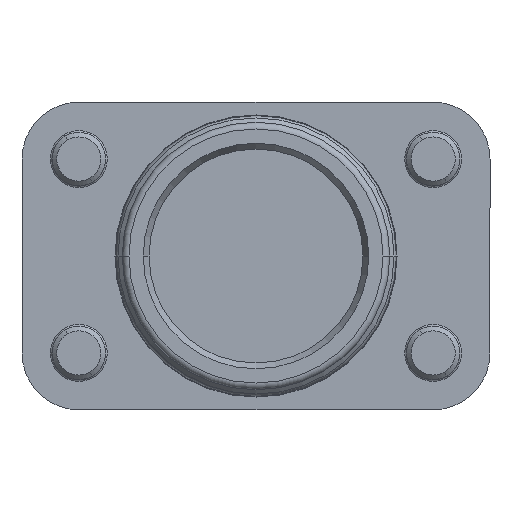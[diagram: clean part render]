
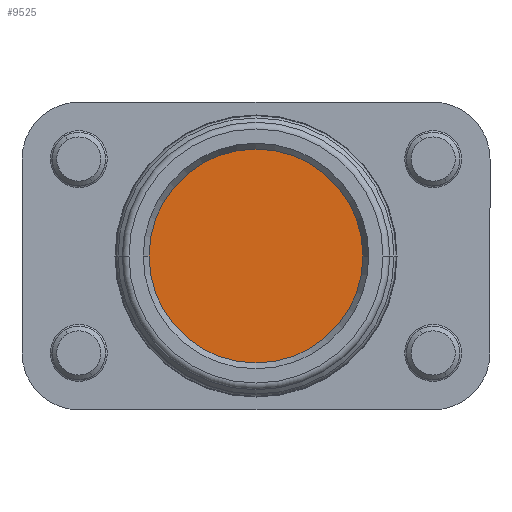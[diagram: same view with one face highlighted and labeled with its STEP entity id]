
A CAD part, front view. The second image highlights one B-rep face of the part: STEP entity #9525.
In plain terms, the highlighted planar face has unit normal (0, -1, 0).
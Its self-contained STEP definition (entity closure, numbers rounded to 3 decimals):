
#1389 = ORIENTED_EDGE ( 'NONE', *, *, #1446, .T. ) ;
#1446 = EDGE_CURVE ( 'NONE', #11925, #10078, #2579, .T. ) ;
#1902 = CARTESIAN_POINT ( 'NONE',  ( 0., 0., 0. ) ) ;
#2292 = DIRECTION ( 'NONE',  ( 0., -1., 0. ) ) ;
#2579 = CIRCLE ( 'NONE', #8260, 16. ) ;
#2843 = CARTESIAN_POINT ( 'NONE',  ( 0., 0., -16. ) ) ;
#2948 = ORIENTED_EDGE ( 'NONE', *, *, #9730, .T. ) ;
#3436 = DIRECTION ( 'NONE',  ( 0., -1., 0. ) ) ;
#4275 = DIRECTION ( 'NONE',  ( 0., 0., -1. ) ) ;
#4323 = EDGE_LOOP ( 'NONE', ( #2948, #1389 ) ) ;
#4900 = DIRECTION ( 'NONE',  ( 0., -1., 0. ) ) ;
#5019 = AXIS2_PLACEMENT_3D ( 'NONE', #10800, #4900, #10963 ) ;
#5323 = CARTESIAN_POINT ( 'NONE',  ( 0., 0., 16. ) ) ;
#5803 = PLANE ( 'NONE',  #5019 ) ;
#7314 = CARTESIAN_POINT ( 'NONE',  ( 0., 0., 0. ) ) ;
#8260 = AXIS2_PLACEMENT_3D ( 'NONE', #1902, #2292, #10151 ) ;
#9525 = ADVANCED_FACE ( 'NONE', ( #11358 ), #5803, .T. ) ;
#9632 = CIRCLE ( 'NONE', #10489, 16. ) ;
#9730 = EDGE_CURVE ( 'NONE', #10078, #11925, #9632, .T. ) ;
#10078 = VERTEX_POINT ( 'NONE', #2843 ) ;
#10151 = DIRECTION ( 'NONE',  ( 0., 0., -1. ) ) ;
#10489 = AXIS2_PLACEMENT_3D ( 'NONE', #7314, #3436, #4275 ) ;
#10800 = CARTESIAN_POINT ( 'NONE',  ( 0., 0., 0. ) ) ;
#10963 = DIRECTION ( 'NONE',  ( 0., 0., -1. ) ) ;
#11358 = FACE_OUTER_BOUND ( 'NONE', #4323, .T. ) ;
#11925 = VERTEX_POINT ( 'NONE', #5323 ) ;
